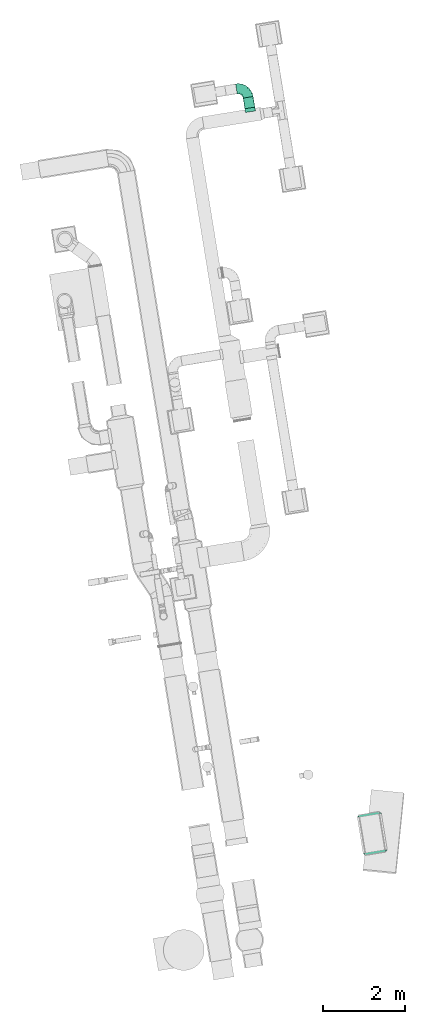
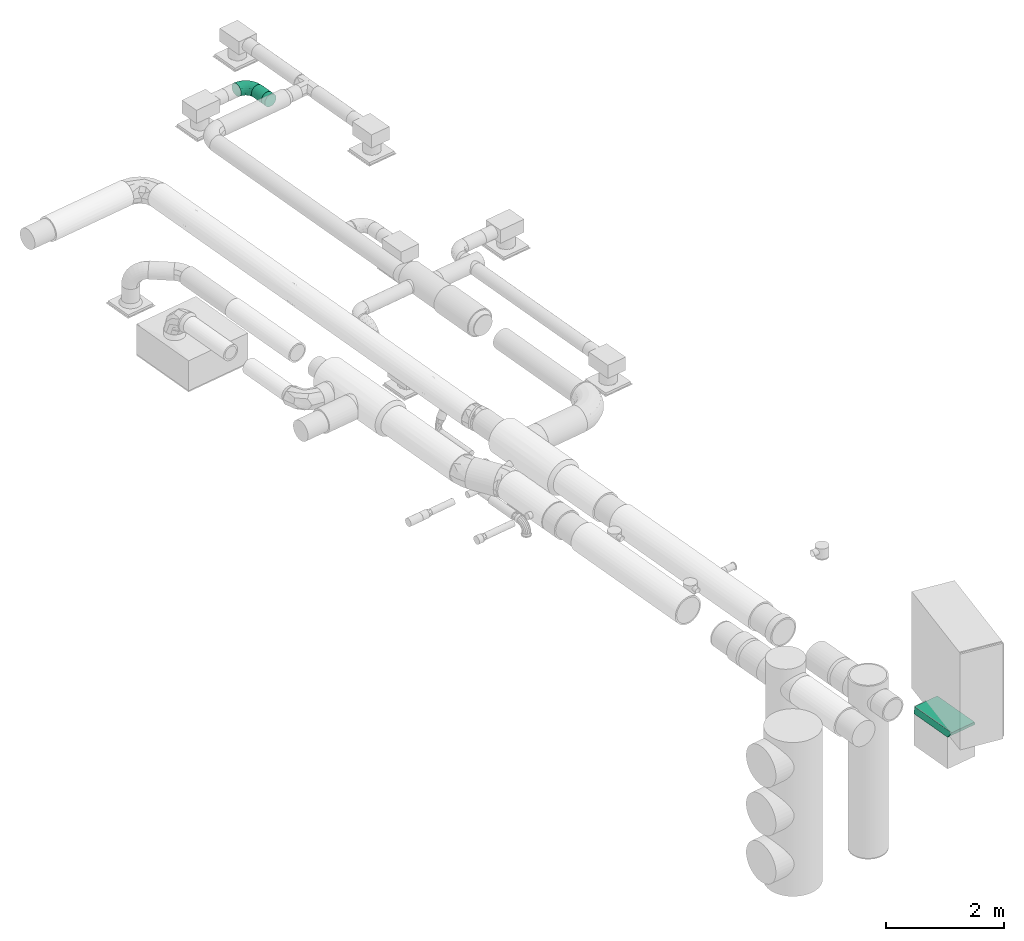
# One storey, part 27 of 39: 3 flow fittings, 1 flow segment.
"""IFC2X3 building model written with IfcOpenShell, lengths in millimetres."""

from ifc_helpers import new_model, entity, si_unit, converted_unit, derived_unit, direction, frame, origin, origin_with_axes, origin_2d_with_axis, place, context, subcontext, project, spatial, circle, extrude, faceted_brep, source, transform, mapped, material, type_object, element, save


model = new_model("IFC2X3")

# Units and contexts
plan_context = context("Plan", 3, precision=1e-05, world=origin_with_axes())
model_context = context("Model", 3, precision=0.01, world=origin(), true_north=direction((6.12323399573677e-17, 1.0)))
body_context = subcontext(model_context, "Body", "Model", "MODEL_VIEW")
ifc_project = project(units=[converted_unit("PLANEANGLEUNIT", "DEGREE", entity("IfcPositiveLengthMeasure", 0.0174532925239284), si_unit("PLANEANGLEUNIT", "RADIAN"), dimensions=[0, 0, 0, 0, 0, 0, 0]), si_unit("AREAUNIT", "SQUARE_METRE"), si_unit("LENGTHUNIT", "METRE", prefix="MILLI"), si_unit("MASSUNIT", "GRAM", prefix="KILO"), si_unit("POWERUNIT", "WATT"), si_unit("PRESSUREUNIT", "PASCAL", prefix="KILO"), si_unit("FORCEUNIT", "NEWTON", prefix="KILO"), si_unit("ELECTRICVOLTAGEUNIT", "VOLT"), si_unit("ELECTRICCURRENTUNIT", "AMPERE"), si_unit("THERMODYNAMICTEMPERATUREUNIT", "DEGREE_CELSIUS"), si_unit("TIMEUNIT", "SECOND"), si_unit("VOLUMEUNIT", "CUBIC_METRE"), derived_unit("LINEARVELOCITYUNIT", [(si_unit("LENGTHUNIT", "METRE"), 1), (si_unit("TIMEUNIT", "SECOND"), -1)]), derived_unit("VOLUMETRICFLOWRATEUNIT", [(si_unit("VOLUMEUNIT", "CUBIC_METRE"), 1), (si_unit("TIMEUNIT", "SECOND"), -1)]), derived_unit("THERMALTRANSMITTANCEUNIT", [(si_unit("POWERUNIT", "WATT"), 1), (si_unit("THERMODYNAMICTEMPERATUREUNIT", "KELVIN"), -1), (si_unit("AREAUNIT", "SQUARE_METRE"), -1)]), derived_unit("SOUNDPRESSUREUNIT", [(si_unit("PRESSUREUNIT", "PASCAL"), 1)])], contexts=[model_context, plan_context])

# Site, building, storey
site_placement = place(None, frame((-0.00071070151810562, 0.00438415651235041, 0.0), z_axis=(0.0, 0.0, 1.0), x_axis=(-0.160236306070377, 0.987078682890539, 0.0)))
site = spatial("IfcSite", under=ifc_project, at=site_placement, Name="Default", CompositionType="ELEMENT")
building_placement = place(site_placement, origin_with_axes())
building = spatial("IfcBuilding", under=site, at=building_placement, CompositionType="ELEMENT")
storey_placement = place(building_placement, frame((0.0, 0.0, 58999.9999999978), z_axis=(0.0, 0.0, 1.0), x_axis=(1.0, 0.0, 0.0)))
storey = spatial("IfcBuildingStorey", under=building, at=storey_placement, Name="Nivå F", CompositionType="ELEMENT", Elevation=58999.9999999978)

# Flow fittings
ifc_material_1 = material(Name="Material_Duct")
duct_fitting_type_1 = type_object("IfcDuctFittingType", Name="magirect_reduction1_001:magirect_reduction1_001", PredefinedType="NOTDEFINED", material=ifc_material_1)
shared_shape_1 = source(origin(), body_context, "Body", "Brep", [
    faceted_brep([(100.0, -300.0, 450.0), (100.0, -300.0, -450.0), (100.0, 300.0, -450.0), (100.0, 300.0, 450.0), (0.0, 0.0, 500.0), (0.0, 250.0, 500.0), (0.0, 250.0, 0.0), (0.0, 250.0, -500.0), (0.0, 0.0, -500.0), (0.0, -250.0, -500.0), (0.0, -250.0, 0.0), (0.0, -250.0, 500.0)], [[[0, 1, 2, 3]], [[4, 5, 6, 7, 8, 9, 10, 11]], [[4, 0, 3, 5]], [[5, 3, 2, 6]], [[6, 2, 7]], [[7, 2, 1, 8]], [[8, 1, 9]], [[9, 1, 0, 10]], [[10, 0, 11]], [[11, 0, 4]]]),
])
flow_fitting_1_placement = place(storey_placement, frame((765967.619644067, -506652.480498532, 105.0), z_axis=(-1.0, 0.0, 0.0), x_axis=(0.0, 0.0, -1.0)))
element("IfcFlowFitting", 1, at=flow_fitting_1_placement, inside=storey, type_object=duct_fitting_type_1, material=ifc_material_1, Name="magirect_reduction1_001:magirect_reduction1_001", ObjectType="magirect_reduction1_001:magirect_reduction1_001", context=body_context, shape_type="MappedRepresentation", body=[
    mapped(shared_shape_1, transform((0.0, 0.0, 0.0), scale=1.0)),
])
ifc_material_2 = material(Name="<Unnamed>")
duct_fitting_type_2 = type_object("IfcDuctFittingType", Name="magicirc_elbow_full_radius_1:magicirc_elbow_full_radius_001", PredefinedType="NOTDEFINED", material=ifc_material_2)
shared_shape_2 = source(origin(), body_context, "Body", "Brep", [
    faceted_brep([(-166.554649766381, -115.597967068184, 0.0), (-167.916018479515, -109.633421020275, 38.6271242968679), (-250.0, -118.882064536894, 38.6271242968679), (-250.0, -125.0, 0.0), (-171.866864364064, -92.3236342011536, 73.4731565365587), (-250.0, -101.127124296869, 73.4731565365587), (-178.020451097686, -65.363009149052, 101.127124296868), (-250.0, -73.4731565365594, 101.127124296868), (-185.774422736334, -31.3906396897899, 118.882064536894), (-250.0, -38.6271242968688, 118.882064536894), (-194.36976651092, 6.26802195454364, 125.0), (-250.0, 0.0, 125.0), (-202.965110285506, 43.9266835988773, 118.882064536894), (-250.0, 38.6271242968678, 118.882064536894), (-210.719081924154, 77.8990530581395, 101.127124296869), (-250.0, 73.4731565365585, 101.127124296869), (-216.872668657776, 104.859678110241, 73.4731565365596), (-250.0, 101.127124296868, 73.4731565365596), (-220.823514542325, 122.169464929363, 38.6271242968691), (-250.0, 118.882064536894, 38.6271242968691), (-222.18488325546, 128.134010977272, 0.0), (-250.0, 125.0, 0.0), (-220.823514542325, 122.169464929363, -38.6271242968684), (-250.0, 118.882064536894, -38.6271242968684), (-216.872668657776, 104.859678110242, -73.473156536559), (-250.0, 101.127124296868, -73.473156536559), (-210.719081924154, 77.8990530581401, -101.127124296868), (-250.0, 73.4731565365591, -101.127124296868), (-202.965110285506, 43.926683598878, -118.882064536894), (-250.0, 38.6271242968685, -118.882064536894), (-194.36976651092, 6.26802195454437, -125.0), (-250.0, 0.0, -125.0), (-185.774422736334, -31.3906396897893, -118.882064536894), (-250.0, -38.6271242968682, -118.882064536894), (-178.020451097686, -65.3630091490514, -101.127124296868), (-250.0, -73.4731565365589, -101.127124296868), (-171.866864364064, -92.3236342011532, -73.4731565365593), (-250.0, -101.127124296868, -73.4731565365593), (-167.916018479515, -109.633421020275, -38.6271242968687), (-250.0, -118.882064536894, -38.6271242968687), (-87.2935978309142, -87.8633254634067, 0.0), (-89.9480705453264, -82.3512560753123, 38.6271242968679), (-97.6516504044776, -66.3546076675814, 73.4731565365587), (-109.650257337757, -41.4392436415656, 101.127124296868), (-124.769384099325, -10.0440534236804, 118.882064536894), (-141.529065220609, 24.7577830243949, 125.0), (-158.288746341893, 59.5596194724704, 118.882064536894), (-173.407873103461, 90.9548096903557, 101.127124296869), (-185.406480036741, 115.870173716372, 73.4731565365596), (-193.110059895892, 131.866822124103, 38.6271242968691), (-195.764532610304, 137.378891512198, 0.0), (-193.110059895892, 131.866822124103, -38.6271242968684), (-185.406480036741, 115.870173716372, -73.473156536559), (-173.407873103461, 90.9548096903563, -101.127124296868), (-158.288746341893, 59.5596194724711, -118.882064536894), (-141.529065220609, 24.7577830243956, -125.0), (-124.769384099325, -10.0440534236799, -118.882064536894), (-109.650257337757, -41.4392436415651, -101.127124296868), (-97.6516504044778, -66.354607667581, -73.4731565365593), (-89.9480705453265, -82.3512560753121, -38.6271242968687), (-16.1913243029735, -43.1868059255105, 0.0), (-20.0057946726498, -38.4036113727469, 38.6271242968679), (-31.0758188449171, -24.5222401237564, 73.4731565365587), (-48.3177857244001, -2.90149751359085, 101.127124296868), (-70.0439314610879, 24.3422275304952, 118.882064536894), (-94.127549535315, 54.5421293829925, 125.0), (-118.211167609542, 84.7420312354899, 118.882064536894), (-139.93731334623, 111.985756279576, 101.127124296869), (-157.179280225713, 133.606498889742, 73.4731565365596), (-168.249304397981, 147.487870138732, 38.6271242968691), (-172.063774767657, 152.271064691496, 0.0), (-168.249304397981, 147.487870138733, -38.6271242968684), (-157.179280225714, 133.606498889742, -73.473156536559), (-139.937313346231, 111.985756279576, -101.127124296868), (-118.211167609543, 84.7420312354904, -118.882064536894), (-94.1275495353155, 54.5421293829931, -125.0), (-70.0439314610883, 24.3422275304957, -118.882064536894), (-48.3177857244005, -2.9014975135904, -101.127124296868), (-31.0758188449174, -24.5222401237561, -73.4731565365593), (-20.00579467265, -38.4036113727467, -38.6271242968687), (43.1868059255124, 16.1913243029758, 0.0), (38.4036113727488, 20.005794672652, 38.6271242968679), (24.5222401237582, 31.0758188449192, 73.4731565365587), (2.9014975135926, 48.3177857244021, 101.127124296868), (-24.3422275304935, 70.0439314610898, 118.882064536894), (-54.5421293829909, 94.1275495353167, 125.0), (-84.7420312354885, 118.211167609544, 118.882064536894), (-111.985756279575, 139.937313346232, 101.127124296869), (-133.60649888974, 157.179280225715, 73.4731565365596), (-147.487870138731, 168.249304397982, 38.6271242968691), (-152.271064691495, 172.063774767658, 0.0), (-147.487870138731, 168.249304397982, -38.6271242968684), (-133.606498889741, 157.179280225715, -73.473156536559), (-111.985756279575, 139.937313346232, -101.127124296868), (-84.742031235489, 118.211167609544, -118.882064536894), (-54.5421293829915, 94.1275495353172, -125.0), (-24.342227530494, 70.0439314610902, -118.882064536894), (2.90149751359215, 48.3177857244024, -101.127124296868), (24.5222401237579, 31.0758188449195, -73.4731565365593), (38.4036113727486, 20.0057946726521, -38.6271242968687), (87.8633254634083, 87.2935978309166, 0.0), (82.3512560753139, 89.9480705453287, 38.6271242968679), (66.3546076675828, 97.6516504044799, 73.4731565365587), (41.4392436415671, 109.650257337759, 101.127124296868), (10.0440534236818, 124.769384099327, 118.882064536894), (-24.7577830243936, 141.529065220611, 125.0), (-59.5596194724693, 158.288746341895, 118.882064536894), (-90.9548096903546, 173.407873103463, 101.127124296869), (-115.870173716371, 185.406480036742, 73.4731565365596), (-131.866822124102, 193.110059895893, 38.6271242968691), (-137.378891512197, 195.764532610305, 0.0), (-131.866822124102, 193.110059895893, -38.6271242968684), (-115.870173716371, 185.406480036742, -73.473156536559), (-90.9548096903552, 173.407873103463, -101.127124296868), (-59.5596194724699, 158.288746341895, -118.882064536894), (-24.7577830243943, 141.529065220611, -125.0), (10.0440534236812, 124.769384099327, -118.882064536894), (41.4392436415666, 109.650257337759, -101.127124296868), (66.3546076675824, 97.65165040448, -73.4731565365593), (82.3512560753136, 89.9480705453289, -38.6271242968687), (115.597967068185, 166.554649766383, 0.0), (109.633421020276, 167.916018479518, 38.6271242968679), (92.3236342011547, 171.866864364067, 73.4731565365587), (65.3630091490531, 178.020451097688, 101.127124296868), (31.390639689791, 185.774422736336, 118.882064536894), (-6.26802195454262, 194.369766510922, 125.0), (-43.9266835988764, 202.965110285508, 118.882064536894), (-77.8990530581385, 210.719081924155, 101.127124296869), (-104.85967811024, 216.872668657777, 73.4731565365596), (-122.169464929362, 220.823514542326, 38.6271242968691), (-128.134010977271, 222.184883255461, 0.0), (-122.169464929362, 220.823514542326, -38.6271242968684), (-104.859678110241, 216.872668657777, -73.473156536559), (-77.8990530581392, 210.719081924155, -101.127124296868), (-43.926683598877, 202.965110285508, -118.882064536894), (-6.26802195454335, 194.369766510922, -125.0), (31.3906396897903, 185.774422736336, -118.882064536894), (65.3630091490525, 178.020451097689, -101.127124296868), (92.3236342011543, 171.866864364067, -73.4731565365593), (109.633421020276, 167.916018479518, -38.6271242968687), (125.0, 250.0, 0.0), (118.882064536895, 250.0, 38.6271242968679), (101.127124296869, 250.0, 73.4731565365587), (73.4731565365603, 250.0, 101.127124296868), (38.6271242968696, 250.0, 118.882064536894), (0.0, 250.0, 125.0), (-38.627124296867, 250.0, 118.882064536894), (-73.4731565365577, 250.0, 101.127124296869), (-101.127124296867, 250.0, 73.4731565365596), (-118.882064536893, 250.0, 38.6271242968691), (-125.0, 250.0, 0.0), (-118.882064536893, 250.0, -38.6271242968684), (-101.127124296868, 250.0, -73.473156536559), (-73.4731565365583, 250.0, -101.127124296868), (-38.6271242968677, 250.0, -118.882064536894), (0.0, 250.0, -125.0), (38.627124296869, 250.0, -118.882064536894), (73.4731565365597, 250.0, -101.127124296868), (101.127124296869, 250.0, -73.4731565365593), (118.882064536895, 250.0, -38.6271242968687)], [[[0, 1, 2, 3]], [[1, 4, 5, 2]], [[4, 6, 7, 5]], [[6, 8, 9, 7]], [[8, 10, 11, 9]], [[10, 12, 13, 11]], [[12, 14, 15, 13]], [[14, 16, 17, 15]], [[16, 18, 19, 17]], [[18, 20, 21, 19]], [[20, 22, 23, 21]], [[22, 24, 25, 23]], [[24, 26, 27, 25]], [[26, 28, 29, 27]], [[28, 30, 31, 29]], [[30, 32, 33, 31]], [[32, 34, 35, 33]], [[34, 36, 37, 35]], [[36, 38, 39, 37]], [[38, 0, 3, 39]], [[40, 41, 1, 0]], [[41, 42, 4, 1]], [[42, 43, 6, 4]], [[43, 44, 8, 6]], [[44, 45, 10, 8]], [[45, 46, 12, 10]], [[46, 47, 14, 12]], [[47, 48, 16, 14]], [[48, 49, 18, 16]], [[49, 50, 20, 18]], [[50, 51, 22, 20]], [[51, 52, 24, 22]], [[52, 53, 26, 24]], [[53, 54, 28, 26]], [[54, 55, 30, 28]], [[55, 56, 32, 30]], [[56, 57, 34, 32]], [[57, 58, 36, 34]], [[58, 59, 38, 36]], [[59, 40, 0, 38]], [[60, 61, 41, 40]], [[61, 62, 42, 41]], [[62, 63, 43, 42]], [[63, 64, 44, 43]], [[64, 65, 45, 44]], [[65, 66, 46, 45]], [[66, 67, 47, 46]], [[67, 68, 48, 47]], [[68, 69, 49, 48]], [[69, 70, 50, 49]], [[70, 71, 51, 50]], [[71, 72, 52, 51]], [[72, 73, 53, 52]], [[73, 74, 54, 53]], [[74, 75, 55, 54]], [[75, 76, 56, 55]], [[76, 77, 57, 56]], [[77, 78, 58, 57]], [[78, 79, 59, 58]], [[79, 60, 40, 59]], [[80, 81, 61, 60]], [[81, 82, 62, 61]], [[82, 83, 63, 62]], [[83, 84, 64, 63]], [[84, 85, 65, 64]], [[85, 86, 66, 65]], [[86, 87, 67, 66]], [[87, 88, 68, 67]], [[88, 89, 69, 68]], [[89, 90, 70, 69]], [[90, 91, 71, 70]], [[91, 92, 72, 71]], [[92, 93, 73, 72]], [[93, 94, 74, 73]], [[94, 95, 75, 74]], [[95, 96, 76, 75]], [[96, 97, 77, 76]], [[97, 98, 78, 77]], [[98, 99, 79, 78]], [[99, 80, 60, 79]], [[100, 101, 81, 80]], [[101, 102, 82, 81]], [[102, 103, 83, 82]], [[103, 104, 84, 83]], [[104, 105, 85, 84]], [[105, 106, 86, 85]], [[106, 107, 87, 86]], [[107, 108, 88, 87]], [[108, 109, 89, 88]], [[109, 110, 90, 89]], [[110, 111, 91, 90]], [[111, 112, 92, 91]], [[112, 113, 93, 92]], [[113, 114, 94, 93]], [[114, 115, 95, 94]], [[115, 116, 96, 95]], [[116, 117, 97, 96]], [[117, 118, 98, 97]], [[118, 119, 99, 98]], [[119, 100, 80, 99]], [[120, 121, 101, 100]], [[121, 122, 102, 101]], [[122, 123, 103, 102]], [[123, 124, 104, 103]], [[124, 125, 105, 104]], [[125, 126, 106, 105]], [[126, 127, 107, 106]], [[127, 128, 108, 107]], [[128, 129, 109, 108]], [[129, 130, 110, 109]], [[130, 131, 111, 110]], [[131, 132, 112, 111]], [[132, 133, 113, 112]], [[133, 134, 114, 113]], [[134, 135, 115, 114]], [[135, 136, 116, 115]], [[136, 137, 117, 116]], [[137, 138, 118, 117]], [[138, 139, 119, 118]], [[139, 120, 100, 119]], [[140, 141, 121, 120]], [[141, 142, 122, 121]], [[142, 143, 123, 122]], [[143, 144, 124, 123]], [[144, 145, 125, 124]], [[145, 146, 126, 125]], [[146, 147, 127, 126]], [[147, 148, 128, 127]], [[148, 149, 129, 128]], [[149, 150, 130, 129]], [[150, 151, 131, 130]], [[151, 152, 132, 131]], [[152, 153, 133, 132]], [[153, 154, 134, 133]], [[154, 155, 135, 134]], [[155, 156, 136, 135]], [[156, 157, 137, 136]], [[157, 158, 138, 137]], [[158, 159, 139, 138]], [[159, 140, 120, 139]], [[3, 2, 5, 7, 9, 11, 13, 15, 17, 19, 21, 23, 25, 27, 29, 31, 33, 35, 37, 39]], [[159, 158, 157, 156, 155, 154, 153, 152, 151, 150, 149, 148, 147, 146, 145, 144, 143, 142, 141, 140]]]),
])
flow_fitting_2_placement = place(storey_placement, frame((784500.119644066, -506540.980498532, 3130.0), z_axis=(0.0, 0.0, 1.0), x_axis=(1.0, 0.0, 0.0)))
element("IfcFlowFitting", 2, at=flow_fitting_2_placement, inside=storey, type_object=duct_fitting_type_2, material=ifc_material_2, Name="magicirc_elbow_full_radius_1:magicirc_elbow_full_radius_001", ObjectType="magicirc_elbow_full_radius_1:magicirc_elbow_full_radius_001", context=body_context, shape_type="MappedRepresentation", body=[
    mapped(shared_shape_2, transform((0.0, 0.0, 0.0), scale=1.0)),
])
duct_fitting_type_3 = type_object("IfcDuctFittingType", Name="magicirc_tapoutlet_1:magicirc_tapoutlet_001", PredefinedType="NOTDEFINED", material=ifc_material_2)
shared_shape_3 = source(origin(), body_context, "Body", "Brep", [
    faceted_brep([(-67.7771605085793, -120.740728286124, 32.3523806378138), (-67.7771605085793, -108.253175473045, 62.4999999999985), (-67.7771605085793, -88.388347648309, 88.3883476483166), (-67.7771605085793, -62.4999999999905, 108.253175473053), (-67.7771605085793, -32.3523806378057, 120.740728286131), (-67.7771605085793, 0.0, 125.0), (-67.7771605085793, 32.3523806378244, 120.740728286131), (-67.7771605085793, 62.5000000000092, 108.253175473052), (-67.7771605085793, 88.3883476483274, 88.3883476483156), (-67.7771605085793, 108.253175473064, 62.4999999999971), (-67.7771605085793, 120.740728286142, 32.3523806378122), (-67.7771605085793, 125.0, 0.0), (-67.7771605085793, 120.740728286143, -32.352380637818), (-67.7771605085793, 108.253175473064, -62.5000000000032), (-67.7771605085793, 88.388347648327, -88.3883476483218), (-67.7771605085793, 62.5000000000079, -108.253175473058), (-67.7771605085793, 32.3523806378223, -120.740728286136), (-67.7771605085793, 0.0, -125.0), (-67.7771605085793, -32.3523806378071, -120.740728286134), (-67.7771605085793, -62.4999999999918, -108.253175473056), (-67.7771605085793, -88.3883476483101, -88.3883476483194), (-67.7771605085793, -108.253175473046, -62.500000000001), (-67.7771605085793, -120.740728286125, -32.3523806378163), (-67.7771605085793, -125.0, 0.0), (0.0, -32.3523806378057, 120.740728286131), (25.0, -32.3523806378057, 120.740728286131), (25.0, 0.0, 125.0), (0.0, 0.0, 125.0), (0.0, -62.4999999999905, 108.253175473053), (25.0, -62.4999999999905, 108.253175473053), (0.0, -88.388347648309, 88.3883476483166), (25.0, -88.388347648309, 88.3883476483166), (0.0, -120.740728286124, 32.3523806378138), (25.0, -120.740728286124, 32.3523806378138), (25.0, -108.253175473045, 62.4999999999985), (0.0, -108.253175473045, 62.4999999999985), (0.0, -125.0, 0.0), (25.0, -125.0, 0.0), (0.0, -120.740728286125, -32.3523806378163), (25.0, -120.740728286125, -32.3523806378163), (0.0, -108.253175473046, -62.500000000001), (25.0, -108.253175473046, -62.500000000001), (0.0, -88.3883476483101, -88.3883476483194), (25.0, -88.3883476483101, -88.3883476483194), (0.0, -32.3523806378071, -120.740728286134), (25.0, -32.3523806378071, -120.740728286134), (25.0, -62.4999999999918, -108.253175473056), (0.0, -62.4999999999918, -108.253175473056), (0.0, 0.0, -125.0), (25.0, 0.0, -125.0), (0.0, 32.3523806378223, -120.740728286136), (25.0, 32.3523806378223, -120.740728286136), (0.0, 62.5000000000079, -108.253175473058), (25.0, 62.5000000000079, -108.253175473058), (0.0, 88.388347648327, -88.3883476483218), (25.0, 88.388347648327, -88.3883476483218), (0.0, 120.740728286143, -32.352380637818), (25.0, 120.740728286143, -32.352380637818), (25.0, 108.253175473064, -62.5000000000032), (0.0, 108.253175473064, -62.5000000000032), (0.0, 125.0, 0.0), (25.0, 125.0, 0.0), (0.0, 120.740728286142, 32.3523806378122), (25.0, 120.740728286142, 32.3523806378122), (0.0, 108.253175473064, 62.4999999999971), (25.0, 108.253175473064, 62.4999999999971), (0.0, 88.3883476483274, 88.3883476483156), (25.0, 88.3883476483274, 88.3883476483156), (0.0, 32.3523806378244, 120.740728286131), (25.0, 32.3523806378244, 120.740728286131), (25.0, 62.5000000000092, 108.253175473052), (0.0, 62.5000000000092, 108.253175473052)], [[[0, 1, 2, 3, 4, 5, 6, 7, 8, 9, 10, 11, 12, 13, 14, 15, 16, 17, 18, 19, 20, 21, 22, 23]], [[24, 25, 26, 27, 5, 4]], [[28, 29, 25, 24, 4, 3]], [[30, 31, 29, 28, 3, 2]], [[32, 33, 34, 35, 1, 0]], [[36, 37, 33, 32, 0, 23]], [[1, 35, 34, 31, 30, 2]], [[38, 39, 37, 36, 23, 22]], [[40, 41, 39, 38, 22, 21]], [[42, 43, 41, 40, 21, 20]], [[44, 45, 46, 47, 19, 18]], [[48, 49, 45, 44, 18, 17]], [[19, 47, 46, 43, 42, 20]], [[50, 51, 49, 48, 17, 16]], [[52, 53, 51, 50, 16, 15]], [[54, 55, 53, 52, 15, 14]], [[56, 57, 58, 59, 13, 12]], [[60, 61, 57, 56, 12, 11]], [[13, 59, 58, 55, 54, 14]], [[62, 63, 61, 60, 11, 10]], [[64, 65, 63, 62, 10, 9]], [[66, 67, 65, 64, 9, 8]], [[68, 69, 70, 71, 7, 6]], [[27, 26, 69, 68, 6, 5]], [[7, 71, 70, 67, 66, 8]], [[49, 51, 53, 55, 58, 57, 61, 63, 65, 67, 70, 69, 26, 25, 29, 31, 34, 33, 37, 39, 41, 43, 46, 45]]]),
    faceted_brep([(25.0, 0.0, -125.0), (25.0, 32.3523806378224, -120.740728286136), (25.0, 62.500000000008, -108.253175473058), (25.0, 88.3883476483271, -88.3883476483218), (25.0, 108.253175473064, -62.5000000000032), (25.0, 120.740728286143, -32.352380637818), (25.0, 125.0, 0.0), (25.0, 120.740728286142, 32.3523806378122), (25.0, 108.253175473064, 62.4999999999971), (25.0, 88.3883476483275, 88.3883476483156), (25.0, 62.5000000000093, 108.253175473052), (25.0, 32.3523806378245, 120.740728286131), (25.0, 0.0, 125.0), (25.0, -32.3523806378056, 120.740728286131), (25.0, -62.4999999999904, 108.253175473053), (25.0, -88.3883476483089, 88.3883476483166), (25.0, -108.253175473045, 62.4999999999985), (25.0, -120.740728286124, 32.3523806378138), (25.0, -125.0, 0.0), (25.0, -120.740728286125, -32.3523806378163), (25.0, -108.253175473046, -62.500000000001), (25.0, -88.38834764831, -88.3883476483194), (25.0, -62.4999999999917, -108.253175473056), (25.0, -32.352380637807, -120.740728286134), (0.0, 0.0, 125.0), (-67.7771605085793, 0.0, 125.0), (-67.7771605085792, -32.3523806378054, 120.740728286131), (0.0, -32.3523806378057, 120.740728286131), (-67.7771605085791, -62.4999999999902, 108.253175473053), (0.0, -62.4999999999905, 108.253175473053), (0.0, -88.388347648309, 88.3883476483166), (-67.777160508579, -88.3883476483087, 88.3883476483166), (0.0, -108.253175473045, 62.4999999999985), (-67.7771605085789, -108.253175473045, 62.4999999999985), (-67.7771605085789, -120.740728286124, 32.3523806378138), (0.0, -120.740728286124, 32.3523806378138), (-67.7771605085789, -125.0, 0.0), (0.0, -125.0, 0.0), (-67.7771605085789, -120.740728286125, -32.3523806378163), (0.0, -120.740728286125, -32.3523806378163), (-67.7771605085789, -108.253175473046, -62.500000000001), (0.0, -108.253175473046, -62.500000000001), (0.0, -88.38834764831, -88.3883476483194), (-67.777160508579, -88.3883476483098, -88.3883476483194), (0.0, 0.0, -125.0), (0.0, -32.352380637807, -120.740728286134), (-67.7771605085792, -32.3523806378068, -120.740728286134), (-67.7771605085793, 0.0, -125.0), (0.0, -62.4999999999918, -108.253175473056), (-67.7771605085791, -62.4999999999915, -108.253175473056), (-67.7771605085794, 32.3523806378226, -120.740728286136), (0.0, 32.3523806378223, -120.740728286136), (-67.7771605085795, 62.5000000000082, -108.253175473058), (0.0, 62.5000000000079, -108.253175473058), (0.0, 88.388347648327, -88.3883476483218), (-67.7771605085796, 88.3883476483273, -88.3883476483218), (0.0, 108.253175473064, -62.5000000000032), (-67.7771605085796, 108.253175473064, -62.5000000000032), (-67.7771605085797, 120.740728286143, -32.352380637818), (0.0, 120.740728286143, -32.352380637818), (-67.7771605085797, 125.0, 0.0), (0.0, 125.0, 0.0), (-67.7771605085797, 120.740728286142, 32.3523806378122), (0.0, 120.740728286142, 32.3523806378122), (-67.7771605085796, 108.253175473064, 62.4999999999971), (0.0, 108.253175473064, 62.499999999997), (0.0, 88.3883476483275, 88.3883476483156), (-67.7771605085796, 88.3883476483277, 88.3883476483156), (0.0, 62.5000000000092, 108.253175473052), (-67.7771605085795, 62.5000000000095, 108.253175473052), (-67.7771605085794, 32.3523806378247, 120.740728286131), (0.0, 32.3523806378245, 120.740728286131)], [[[0, 1, 2, 3, 4, 5, 6, 7, 8, 9, 10, 11, 12, 13, 14, 15, 16, 17, 18, 19, 20, 21, 22, 23]], [[13, 12, 24, 25, 26, 27]], [[14, 13, 27, 26, 28, 29]], [[30, 15, 14, 29, 28, 31]], [[17, 16, 32, 33, 34, 35]], [[18, 17, 35, 34, 36, 37]], [[32, 16, 15, 30, 31, 33]], [[19, 18, 37, 36, 38, 39]], [[20, 19, 39, 38, 40, 41]], [[42, 21, 20, 41, 40, 43]], [[44, 0, 23, 45, 46, 47]], [[45, 23, 22, 48, 49, 46]], [[48, 22, 21, 42, 43, 49]], [[1, 0, 44, 47, 50, 51]], [[2, 1, 51, 50, 52, 53]], [[54, 3, 2, 53, 52, 55]], [[5, 4, 56, 57, 58, 59]], [[6, 5, 59, 58, 60, 61]], [[56, 4, 3, 54, 55, 57]], [[7, 6, 61, 60, 62, 63]], [[8, 7, 63, 62, 64, 65]], [[66, 9, 8, 65, 64, 67]], [[11, 10, 68, 69, 70, 71]], [[12, 11, 71, 70, 25, 24]], [[68, 10, 9, 66, 67, 69]], [[34, 33, 31, 28, 26, 25, 70, 69, 67, 64, 62, 60, 58, 57, 55, 52, 50, 47, 46, 49, 43, 40, 38, 36]]]),
    faceted_brep([(-67.7771605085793, -120.740728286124, 32.3523806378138), (-67.7771605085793, -108.253175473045, 62.4999999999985), (-67.7771605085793, -88.388347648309, 88.3883476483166), (-67.7771605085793, -62.4999999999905, 108.253175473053), (-67.7771605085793, -32.3523806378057, 120.740728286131), (-67.7771605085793, 0.0, 125.0), (-67.7771605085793, 32.3523806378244, 120.740728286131), (-67.7771605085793, 62.5000000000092, 108.253175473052), (-67.7771605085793, 88.3883476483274, 88.3883476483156), (-67.7771605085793, 108.253175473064, 62.4999999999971), (-67.7771605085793, 120.740728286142, 32.3523806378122), (-67.7771605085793, 125.0, 0.0), (-67.7771605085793, 120.740728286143, -32.352380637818), (-67.7771605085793, 108.253175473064, -62.5000000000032), (-67.7771605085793, 88.388347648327, -88.3883476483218), (-67.7771605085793, 62.5000000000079, -108.253175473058), (-67.7771605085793, 32.3523806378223, -120.740728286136), (-67.7771605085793, 0.0, -125.0), (-67.7771605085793, -32.3523806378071, -120.740728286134), (-67.7771605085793, -62.4999999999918, -108.253175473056), (-67.7771605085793, -88.3883476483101, -88.3883476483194), (-67.7771605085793, -108.253175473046, -62.500000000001), (-67.7771605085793, -120.740728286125, -32.3523806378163), (-67.7771605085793, -125.0, 0.0), (0.0, -32.3523806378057, 120.740728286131), (25.0, -32.3523806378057, 120.740728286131), (25.0, 0.0, 125.0), (0.0, 0.0, 125.0), (0.0, -62.4999999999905, 108.253175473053), (25.0, -62.4999999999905, 108.253175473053), (0.0, -88.388347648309, 88.3883476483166), (25.0, -88.388347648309, 88.3883476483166), (0.0, -120.740728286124, 32.3523806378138), (25.0, -120.740728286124, 32.3523806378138), (25.0, -108.253175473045, 62.4999999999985), (0.0, -108.253175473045, 62.4999999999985), (0.0, -125.0, 0.0), (25.0, -125.0, 0.0), (0.0, -120.740728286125, -32.3523806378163), (25.0, -120.740728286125, -32.3523806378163), (0.0, -108.253175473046, -62.500000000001), (25.0, -108.253175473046, -62.500000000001), (0.0, -88.3883476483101, -88.3883476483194), (25.0, -88.3883476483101, -88.3883476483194), (0.0, -32.3523806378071, -120.740728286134), (25.0, -32.3523806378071, -120.740728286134), (25.0, -62.4999999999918, -108.253175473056), (0.0, -62.4999999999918, -108.253175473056), (0.0, 0.0, -125.0), (25.0, 0.0, -125.0), (0.0, 32.3523806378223, -120.740728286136), (25.0, 32.3523806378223, -120.740728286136), (0.0, 62.5000000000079, -108.253175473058), (25.0, 62.5000000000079, -108.253175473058), (0.0, 88.388347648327, -88.3883476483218), (25.0, 88.388347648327, -88.3883476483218), (0.0, 120.740728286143, -32.352380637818), (25.0, 120.740728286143, -32.352380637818), (25.0, 108.253175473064, -62.5000000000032), (0.0, 108.253175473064, -62.5000000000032), (0.0, 125.0, 0.0), (25.0, 125.0, 0.0), (0.0, 120.740728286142, 32.3523806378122), (25.0, 120.740728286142, 32.3523806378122), (0.0, 108.253175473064, 62.4999999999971), (25.0, 108.253175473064, 62.4999999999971), (0.0, 88.3883476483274, 88.3883476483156), (25.0, 88.3883476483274, 88.3883476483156), (0.0, 32.3523806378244, 120.740728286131), (25.0, 32.3523806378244, 120.740728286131), (25.0, 62.5000000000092, 108.253175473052), (0.0, 62.5000000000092, 108.253175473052)], [[[0, 1, 2, 3, 4, 5, 6, 7, 8, 9, 10, 11, 12, 13, 14, 15, 16, 17, 18, 19, 20, 21, 22, 23]], [[24, 25, 26, 27, 5, 4]], [[28, 29, 25, 24, 4, 3]], [[30, 31, 29, 28, 3, 2]], [[32, 33, 34, 35, 1, 0]], [[36, 37, 33, 32, 0, 23]], [[1, 35, 34, 31, 30, 2]], [[38, 39, 37, 36, 23, 22]], [[40, 41, 39, 38, 22, 21]], [[42, 43, 41, 40, 21, 20]], [[44, 45, 46, 47, 19, 18]], [[48, 49, 45, 44, 18, 17]], [[19, 47, 46, 43, 42, 20]], [[50, 51, 49, 48, 17, 16]], [[52, 53, 51, 50, 16, 15]], [[54, 55, 53, 52, 15, 14]], [[56, 57, 58, 59, 13, 12]], [[60, 61, 57, 56, 12, 11]], [[13, 59, 58, 55, 54, 14]], [[62, 63, 61, 60, 11, 10]], [[64, 65, 63, 62, 10, 9]], [[66, 67, 65, 64, 9, 8]], [[68, 69, 70, 71, 7, 6]], [[27, 26, 69, 68, 6, 5]], [[7, 71, 70, 67, 66, 8]], [[49, 51, 53, 55, 58, 57, 61, 63, 65, 67, 70, 69, 26, 25, 29, 31, 34, 33, 37, 39, 41, 43, 46, 45]]]),
])
flow_fitting_3_placement = place(storey_placement, frame((783960.119644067, -506540.980498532, 3130.0), z_axis=(0.0, 0.0, -1.0), x_axis=(1.0, 0.0, 0.0)))
element("IfcFlowFitting", 3, at=flow_fitting_3_placement, inside=storey, type_object=duct_fitting_type_3, material=ifc_material_2, Name="magicirc_tapoutlet_1:magicirc_tapoutlet_001", ObjectType="magicirc_tapoutlet_1:magicirc_tapoutlet_001", context=body_context, shape_type="MappedRepresentation", body=[
    mapped(shared_shape_3, transform((0.0, 0.0, 0.0), scale=1.0)),
])

# Flow segment
duct_segment_type = type_object("IfcDuctSegmentType", Name="Round Duct:KK001T - Spiro kanaler, Forsinket stål", PredefinedType="NOTDEFINED")
flow_segment_placement = place(storey_placement, origin_with_axes())
element("IfcFlowSegment", 4, at=flow_segment_placement, inside=storey, type_object=duct_segment_type, Name="Round Duct:KK001T - Spiro kanaler, Forsinket stål", ObjectType="Round Duct:KK001T - Spiro kanaler, Forsinket stål", context=body_context, shape_type="SweptSolid", body=[
    extrude(circle(Radius=125.0, at=origin_2d_with_axis()), frame((783985.119644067, -506540.980498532, 3130.0), z_axis=(1.0, 0.0, 0.0), x_axis=(0.0, -1.0, 0.0)), (0.0, 0.0, 1.0), 264.999999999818),
])

save(model, "model.ifc")
